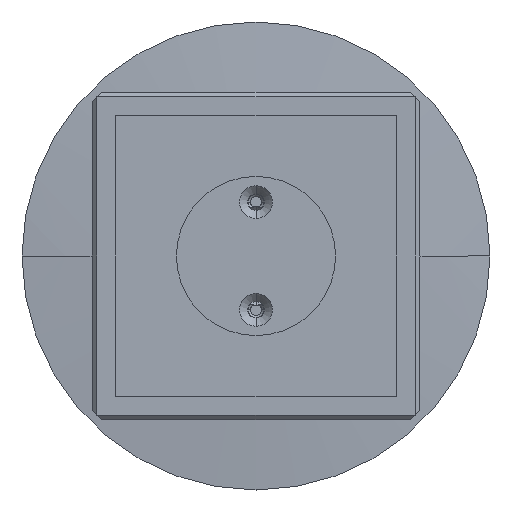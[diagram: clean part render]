
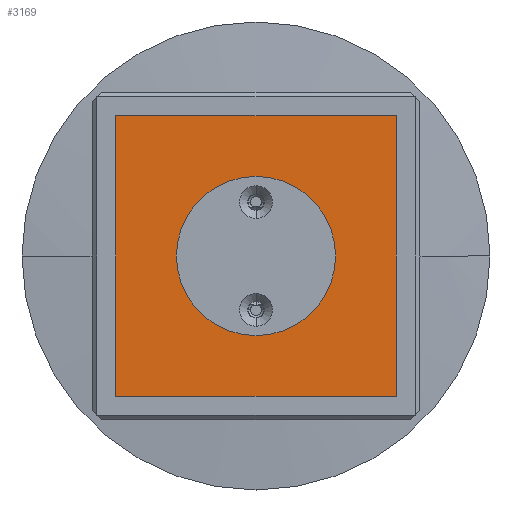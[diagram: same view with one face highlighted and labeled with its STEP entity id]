
A CAD part, front view. The second image highlights one B-rep face of the part: STEP entity #3169.
In plain terms, the highlighted planar face has unit normal (0, -1, 0).
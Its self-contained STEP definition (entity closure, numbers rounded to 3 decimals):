
#116 = ORIENTED_EDGE ( 'NONE', *, *, #35752, .F. ) ;
#1711 = DIRECTION ( 'NONE',  ( 0., 1., 0. ) ) ;
#3169 = ADVANCED_FACE ( 'NONE', ( #53390, #34457 ), #40953, .F. ) ;
#6350 = ORIENTED_EDGE ( 'NONE', *, *, #50419, .T. ) ;
#6886 = CIRCLE ( 'NONE', #25268, 17. ) ;
#7450 = CARTESIAN_POINT ( 'NONE',  ( 0., 0., 0. ) ) ;
#7743 = ORIENTED_EDGE ( 'NONE', *, *, #34627, .F. ) ;
#7769 = VECTOR ( 'NONE', #51191, 1000. ) ;
#8987 = ORIENTED_EDGE ( 'NONE', *, *, #50373, .T. ) ;
#9815 = CARTESIAN_POINT ( 'NONE',  ( -30., 0., -30. ) ) ;
#16155 = ORIENTED_EDGE ( 'NONE', *, *, #24364, .F. ) ;
#18782 = VERTEX_POINT ( 'NONE', #40420 ) ;
#19214 = DIRECTION ( 'NONE',  ( 0., 1., 0. ) ) ;
#21375 = CARTESIAN_POINT ( 'NONE',  ( 30., 0., -30. ) ) ;
#22866 = VERTEX_POINT ( 'NONE', #30301 ) ;
#23418 = VERTEX_POINT ( 'NONE', #30583 ) ;
#24364 = EDGE_CURVE ( 'NONE', #35725, #18782, #43701, .T. ) ;
#25268 = AXIS2_PLACEMENT_3D ( 'NONE', #52339, #1711, #47448 ) ;
#27488 = EDGE_LOOP ( 'NONE', ( #33982, #7743, #116, #16155 ) ) ;
#27668 = VERTEX_POINT ( 'NONE', #34860 ) ;
#28024 = DIRECTION ( 'NONE',  ( 1., 0., 0. ) ) ;
#30081 = LINE ( 'NONE', #9815, #7769 ) ;
#30301 = CARTESIAN_POINT ( 'NONE',  ( 0., 0., -17. ) ) ;
#30583 = CARTESIAN_POINT ( 'NONE',  ( -30., 0., 30. ) ) ;
#32060 = LINE ( 'NONE', #36411, #47739 ) ;
#32510 = CARTESIAN_POINT ( 'NONE',  ( 30., 0., -30. ) ) ;
#33686 = AXIS2_PLACEMENT_3D ( 'NONE', #7450, #19214, #48482 ) ;
#33936 = VECTOR ( 'NONE', #36506, 1000. ) ;
#33982 = ORIENTED_EDGE ( 'NONE', *, *, #35933, .F. ) ;
#34457 = FACE_OUTER_BOUND ( 'NONE', #27488, .T. ) ;
#34627 = EDGE_CURVE ( 'NONE', #23418, #49386, #32060, .T. ) ;
#34860 = CARTESIAN_POINT ( 'NONE',  ( 0., 0., 17. ) ) ;
#35725 = VERTEX_POINT ( 'NONE', #21375 ) ;
#35752 = EDGE_CURVE ( 'NONE', #18782, #23418, #30081, .T. ) ;
#35933 = EDGE_CURVE ( 'NONE', #49386, #35725, #54175, .T. ) ;
#36090 = DIRECTION ( 'NONE',  ( -1., 0., 0. ) ) ;
#36411 = CARTESIAN_POINT ( 'NONE',  ( -30., 0., 30. ) ) ;
#36485 = VECTOR ( 'NONE', #36090, 1000. ) ;
#36506 = DIRECTION ( 'NONE',  ( 0., 0., -1. ) ) ;
#38594 = CARTESIAN_POINT ( 'NONE',  ( 30., 0., 30. ) ) ;
#38675 = CARTESIAN_POINT ( 'NONE',  ( 0., 0., 0. ) ) ;
#40420 = CARTESIAN_POINT ( 'NONE',  ( -30., 0., -30. ) ) ;
#40953 = PLANE ( 'NONE',  #33686 ) ;
#41651 = CIRCLE ( 'NONE', #53998, 17. ) ;
#43701 = LINE ( 'NONE', #52563, #36485 ) ;
#47112 = DIRECTION ( 'NONE',  ( 0., 0., 1. ) ) ;
#47448 = DIRECTION ( 'NONE',  ( 0., 0., 1. ) ) ;
#47739 = VECTOR ( 'NONE', #28024, 1000. ) ;
#48482 = DIRECTION ( 'NONE',  ( 0., 0., 1. ) ) ;
#49386 = VERTEX_POINT ( 'NONE', #38594 ) ;
#50373 = EDGE_CURVE ( 'NONE', #27668, #22866, #41651, .T. ) ;
#50419 = EDGE_CURVE ( 'NONE', #22866, #27668, #6886, .T. ) ;
#50920 = DIRECTION ( 'NONE',  ( 0., 1., 0. ) ) ;
#50968 = EDGE_LOOP ( 'NONE', ( #8987, #6350 ) ) ;
#51191 = DIRECTION ( 'NONE',  ( 0., 0., 1. ) ) ;
#52339 = CARTESIAN_POINT ( 'NONE',  ( 0., 0., 0. ) ) ;
#52563 = CARTESIAN_POINT ( 'NONE',  ( -30., 0., -30. ) ) ;
#53390 = FACE_BOUND ( 'NONE', #50968, .T. ) ;
#53998 = AXIS2_PLACEMENT_3D ( 'NONE', #38675, #50920, #47112 ) ;
#54175 = LINE ( 'NONE', #32510, #33936 ) ;
